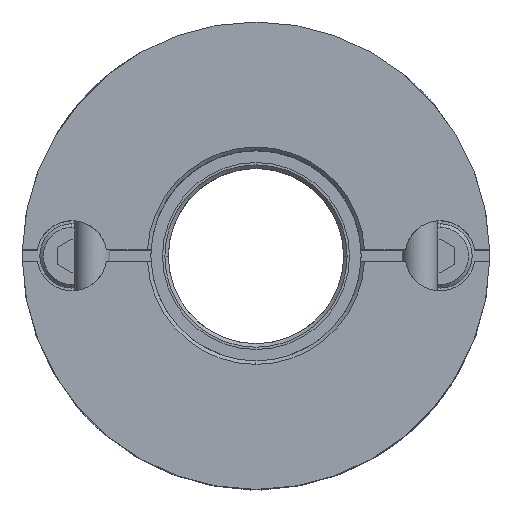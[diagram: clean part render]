
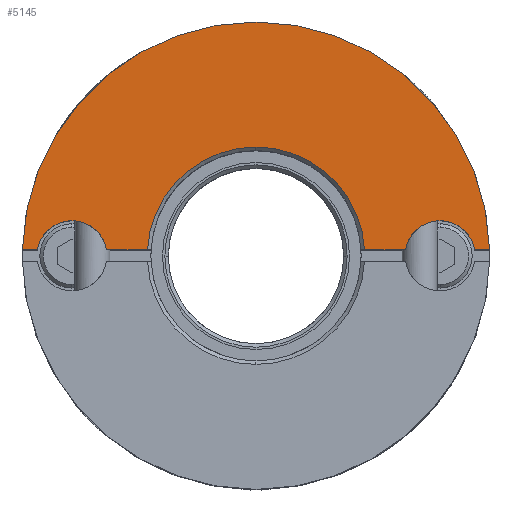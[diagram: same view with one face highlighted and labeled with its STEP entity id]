
A CAD part, top view. The second image highlights one B-rep face of the part: STEP entity #5145.
In plain terms, the highlighted planar face has unit normal (0, 0, 1).
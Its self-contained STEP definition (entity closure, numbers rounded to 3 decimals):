
#1985=CARTESIAN_POINT('',(0.,20.0,15.6));
#1986=VERTEX_POINT('',#1985);
#2070=CARTESIAN_POINT('',(-19.994,0.5,15.6));
#2071=VERTEX_POINT('',#2070);
#2078=CARTESIAN_POINT('',(0.,0.,15.6));
#2079=DIRECTION('',(0.0,0.0,-1.0));
#2080=DIRECTION('',(0.0,1.0,0.0));
#2081=AXIS2_PLACEMENT_3D('',#2078,#2079,#2080);
#2082=CIRCLE('',#2081,20.0);
#2083=EDGE_CURVE('',#2071,#1986,#2082,.T.);
#2369=CARTESIAN_POINT('',(0.,9.3,15.6));
#2370=VERTEX_POINT('',#2369);
#2377=CARTESIAN_POINT('',(-9.287,0.5,15.6));
#2378=VERTEX_POINT('',#2377);
#2379=CARTESIAN_POINT('',(0.,0.,15.6));
#2380=DIRECTION('',(0.0,0.0,1.0));
#2381=DIRECTION('',(0.0,-1.0,0.0));
#2382=AXIS2_PLACEMENT_3D('',#2379,#2380,#2381);
#2383=CIRCLE('',#2382,9.3);
#2384=EDGE_CURVE('',#2370,#2378,#2383,.T.);
#2447=CARTESIAN_POINT('',(15.75,3.,15.6));
#2448=VERTEX_POINT('',#2447);
#2457=CARTESIAN_POINT('',(12.792,0.5,15.6));
#2458=VERTEX_POINT('',#2457);
#2459=CARTESIAN_POINT('',(15.75,0.,15.6));
#2460=DIRECTION('',(0.0,0.0,-1.0));
#2461=DIRECTION('',(0.0,1.0,0.0));
#2462=AXIS2_PLACEMENT_3D('',#2459,#2460,#2461);
#2463=CIRCLE('',#2462,3.0);
#2464=EDGE_CURVE('',#2458,#2448,#2463,.T.);
#2655=CARTESIAN_POINT('',(-15.75,3.,15.6));
#2656=VERTEX_POINT('',#2655);
#2665=CARTESIAN_POINT('',(-18.708,0.5,15.6));
#2666=VERTEX_POINT('',#2665);
#2667=CARTESIAN_POINT('',(-15.75,0.,15.6));
#2668=DIRECTION('',(0.0,0.0,-1.0));
#2669=DIRECTION('',(0.0,1.0,0.0));
#2670=AXIS2_PLACEMENT_3D('',#2667,#2668,#2669);
#2671=CIRCLE('',#2670,3.0);
#2672=EDGE_CURVE('',#2666,#2656,#2671,.T.);
#4047=CARTESIAN_POINT('',(9.287,0.5,15.6));
#4048=VERTEX_POINT('',#4047);
#4049=CARTESIAN_POINT('',(9.287,0.5,15.6));
#4050=DIRECTION('',(1.0,0.0,0.0));
#4051=VECTOR('',#4050,3.505);
#4052=LINE('',#4049,#4051);
#4053=EDGE_CURVE('',#4048,#2458,#4052,.T.);
#4337=CARTESIAN_POINT('',(-12.792,0.5,15.6));
#4338=VERTEX_POINT('',#4337);
#4339=CARTESIAN_POINT('',(-12.792,0.5,15.6));
#4340=DIRECTION('',(1.0,0.0,0.0));
#4341=VECTOR('',#4340,3.505);
#4342=LINE('',#4339,#4341);
#4343=EDGE_CURVE('',#4338,#2378,#4342,.T.);
#4966=CARTESIAN_POINT('',(-15.75,0.,15.6));
#4967=DIRECTION('',(0.0,0.0,-1.0));
#4968=DIRECTION('',(0.0,1.0,0.0));
#4969=AXIS2_PLACEMENT_3D('',#4966,#4967,#4968);
#4970=CIRCLE('',#4969,3.0);
#4971=EDGE_CURVE('',#2656,#4338,#4970,.T.);
#5024=CARTESIAN_POINT('',(18.708,0.5,15.6));
#5025=VERTEX_POINT('',#5024);
#5032=CARTESIAN_POINT('',(15.75,0.,15.6));
#5033=DIRECTION('',(0.0,0.0,-1.0));
#5034=DIRECTION('',(0.0,1.0,0.0));
#5035=AXIS2_PLACEMENT_3D('',#5032,#5033,#5034);
#5036=CIRCLE('',#5035,3.0);
#5037=EDGE_CURVE('',#2448,#5025,#5036,.T.);
#5048=CARTESIAN_POINT('',(-19.994,0.5,15.6));
#5049=DIRECTION('',(1.0,0.0,0.0));
#5050=VECTOR('',#5049,1.286);
#5051=LINE('',#5048,#5050);
#5052=EDGE_CURVE('',#2071,#2666,#5051,.T.);
#5107=CARTESIAN_POINT('',(0.,1.818,15.6));
#5108=DIRECTION('',(0.0,0.0,1.0));
#5109=DIRECTION('',(0.0,1.0,0.0));
#5110=AXIS2_PLACEMENT_3D('',#5107,#5108,#5109);
#5111=PLANE('',#5110);
#5112=ORIENTED_EDGE('',*,*,#2672,.T.);
#5113=ORIENTED_EDGE('',*,*,#4971,.T.);
#5114=ORIENTED_EDGE('',*,*,#4343,.T.);
#5115=ORIENTED_EDGE('',*,*,#2384,.F.);
#5116=CARTESIAN_POINT('',(0.,0.,15.6));
#5117=DIRECTION('',(0.0,0.0,1.0));
#5118=DIRECTION('',(0.0,-1.0,0.0));
#5119=AXIS2_PLACEMENT_3D('',#5116,#5117,#5118);
#5120=CIRCLE('',#5119,9.3);
#5121=EDGE_CURVE('',#4048,#2370,#5120,.T.);
#5122=ORIENTED_EDGE('',*,*,#5121,.F.);
#5123=ORIENTED_EDGE('',*,*,#4053,.T.);
#5124=ORIENTED_EDGE('',*,*,#2464,.T.);
#5125=ORIENTED_EDGE('',*,*,#5037,.T.);
#5126=CARTESIAN_POINT('',(19.994,0.5,15.6));
#5127=VERTEX_POINT('',#5126);
#5128=CARTESIAN_POINT('',(18.708,0.5,15.6));
#5129=DIRECTION('',(1.0,0.0,0.0));
#5130=VECTOR('',#5129,1.286);
#5131=LINE('',#5128,#5130);
#5132=EDGE_CURVE('',#5025,#5127,#5131,.T.);
#5133=ORIENTED_EDGE('',*,*,#5132,.T.);
#5134=CARTESIAN_POINT('',(0.,0.,15.6));
#5135=DIRECTION('',(0.0,0.0,-1.0));
#5136=DIRECTION('',(0.0,1.0,0.0));
#5137=AXIS2_PLACEMENT_3D('',#5134,#5135,#5136);
#5138=CIRCLE('',#5137,20.0);
#5139=EDGE_CURVE('',#1986,#5127,#5138,.T.);
#5140=ORIENTED_EDGE('',*,*,#5139,.F.);
#5141=ORIENTED_EDGE('',*,*,#2083,.F.);
#5142=ORIENTED_EDGE('',*,*,#5052,.T.);
#5143=EDGE_LOOP('',(#5112,#5113,#5114,#5115,#5122,#5123,#5124,#5125,#5133,#5140,#5141,#5142));
#5144=FACE_OUTER_BOUND('',#5143,.T.);
#5145=ADVANCED_FACE('',(#5144),#5111,.T.);
